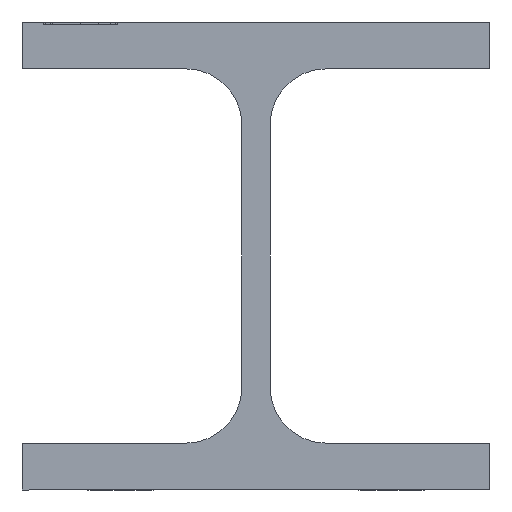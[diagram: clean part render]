
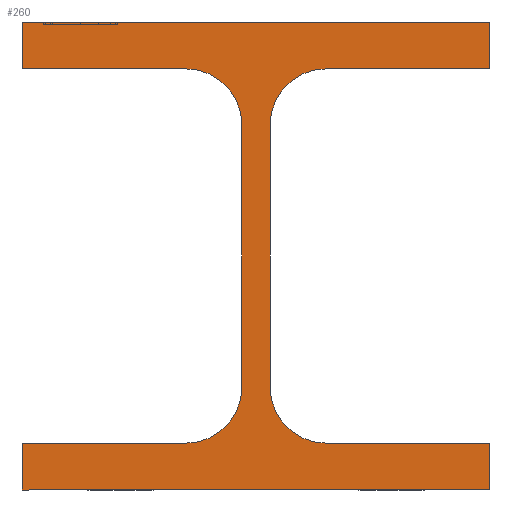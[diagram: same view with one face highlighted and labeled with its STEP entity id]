
A CAD part, left-side view. The second image highlights one B-rep face of the part: STEP entity #260.
In plain terms, the highlighted planar face has unit normal (-1, 0, 0).
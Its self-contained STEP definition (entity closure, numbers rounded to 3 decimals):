
#34 = DIRECTION ( 'NONE',  ( 0., 0., 1. ) ) ;
#65 = EDGE_CURVE ( 'NONE', #603, #608, #1135, .T. ) ;
#77 = DIRECTION ( 'NONE',  ( 0., 0., 1. ) ) ;
#126 = DIRECTION ( 'NONE',  ( 0., 0., 1. ) ) ;
#138 = CARTESIAN_POINT ( 'NONE',  ( -55., 3687., 2368. ) ) ;
#143 = ORIENTED_EDGE ( 'NONE', *, *, #1237, .T. ) ;
#147 = EDGE_CURVE ( 'NONE', #567, #1612, #151, .T. ) ;
#151 = LINE ( 'NONE', #1014, #1837 ) ;
#155 = DIRECTION ( 'NONE',  ( 0., -1., 0. ) ) ;
#222 = CARTESIAN_POINT ( 'NONE',  ( -55., 3687., 2312. ) ) ;
#241 = VECTOR ( 'NONE', #1602, 1000. ) ;
#260 = ADVANCED_FACE ( 'NONE', ( #1724 ), #892, .T. ) ;
#264 = VERTEX_POINT ( 'NONE', #222 ) ;
#275 = VECTOR ( 'NONE', #868, 1000. ) ;
#284 = LINE ( 'NONE', #1968, #876 ) ;
#299 = VERTEX_POINT ( 'NONE', #1387 ) ;
#315 = EDGE_CURVE ( 'NONE', #1959, #1876, #355, .T. ) ;
#323 = CARTESIAN_POINT ( 'NONE',  ( -55., 3705., 2312. ) ) ;
#340 = CIRCLE ( 'NONE', #1485, 12. ) ;
#342 = VECTOR ( 'NONE', #1894, 1000. ) ;
#344 = CARTESIAN_POINT ( 'NONE',  ( -55., 3640., 2300. ) ) ;
#355 = LINE ( 'NONE', #1425, #275 ) ;
#367 = CARTESIAN_POINT ( 'NONE',  ( -55., 3693., 2312. ) ) ;
#370 = ORIENTED_EDGE ( 'NONE', *, *, #489, .T. ) ;
#382 = LINE ( 'NONE', #534, #342 ) ;
#383 = VERTEX_POINT ( 'NONE', #974 ) ;
#405 = DIRECTION ( 'NONE',  ( 1., 0., 0. ) ) ;
#416 = VECTOR ( 'NONE', #816, 1000. ) ;
#446 = CARTESIAN_POINT ( 'NONE',  ( -55., 3693., 2312. ) ) ;
#447 = DIRECTION ( 'NONE',  ( 0., 0., 1. ) ) ;
#489 = EDGE_CURVE ( 'NONE', #1243, #1959, #1023, .T. ) ;
#491 = CARTESIAN_POINT ( 'NONE',  ( -55., 3687., 2368. ) ) ;
#493 = DIRECTION ( 'NONE',  ( 0., 1., 0. ) ) ;
#500 = DIRECTION ( 'NONE',  ( 1., 0., 0. ) ) ;
#534 = CARTESIAN_POINT ( 'NONE',  ( -55., 3640., 2290. ) ) ;
#536 = CARTESIAN_POINT ( 'NONE',  ( -55., 3740., 2390. ) ) ;
#567 = VERTEX_POINT ( 'NONE', #344 ) ;
#596 = VECTOR ( 'NONE', #1054, 1000. ) ;
#601 = EDGE_CURVE ( 'NONE', #383, #299, #835, .T. ) ;
#603 = VERTEX_POINT ( 'NONE', #1234 ) ;
#608 = VERTEX_POINT ( 'NONE', #2057 ) ;
#651 = LINE ( 'NONE', #138, #1450 ) ;
#679 = LINE ( 'NONE', #2036, #1952 ) ;
#685 = CARTESIAN_POINT ( 'NONE',  ( -55., 3640., 2380. ) ) ;
#704 = EDGE_CURVE ( 'NONE', #299, #1746, #340, .T. ) ;
#746 = EDGE_CURVE ( 'NONE', #1612, #264, #1488, .T. ) ;
#764 = CARTESIAN_POINT ( 'NONE',  ( -55., 3693., 2368. ) ) ;
#775 = CARTESIAN_POINT ( 'NONE',  ( -55., 3640., 2390. ) ) ;
#816 = DIRECTION ( 'NONE',  ( 0., 1., 0. ) ) ;
#822 = VERTEX_POINT ( 'NONE', #491 ) ;
#829 = DIRECTION ( 'NONE',  ( 0., 1., 0. ) ) ;
#835 = LINE ( 'NONE', #1362, #596 ) ;
#852 = EDGE_CURVE ( 'NONE', #1285, #1243, #1666, .T. ) ;
#868 = DIRECTION ( 'NONE',  ( 0., 0., -1. ) ) ;
#876 = VECTOR ( 'NONE', #126, 1000. ) ;
#892 = PLANE ( 'NONE',  #1228 ) ;
#894 = VERTEX_POINT ( 'NONE', #536 ) ;
#895 = CARTESIAN_POINT ( 'NONE',  ( -55., 3640., 2290. ) ) ;
#914 = VERTEX_POINT ( 'NONE', #895 ) ;
#958 = EDGE_LOOP ( 'NONE', ( #1454, #1523, #1435, #1042, #1571, #143, #2062, #2133, #1417, #1983, #1895, #978, #1400, #1967, #370, #2043 ) ) ;
#974 = CARTESIAN_POINT ( 'NONE',  ( -55., 3740., 2380. ) ) ;
#978 = ORIENTED_EDGE ( 'NONE', *, *, #704, .T. ) ;
#990 = VECTOR ( 'NONE', #1868, 1000. ) ;
#992 = LINE ( 'NONE', #685, #1445 ) ;
#1014 = CARTESIAN_POINT ( 'NONE',  ( -55., 3675., 2300. ) ) ;
#1023 = LINE ( 'NONE', #1704, #416 ) ;
#1034 = DIRECTION ( 'NONE',  ( -1., 0., 0. ) ) ;
#1042 = ORIENTED_EDGE ( 'NONE', *, *, #746, .T. ) ;
#1054 = DIRECTION ( 'NONE',  ( 0., -1., 0. ) ) ;
#1084 = CARTESIAN_POINT ( 'NONE',  ( -55., 3675., 2368. ) ) ;
#1122 = DIRECTION ( 'NONE',  ( 0., 0., 1. ) ) ;
#1135 = LINE ( 'NONE', #775, #2128 ) ;
#1174 = CARTESIAN_POINT ( 'NONE',  ( -55., 3740., 2380. ) ) ;
#1228 = AXIS2_PLACEMENT_3D ( 'NONE', #1557, #1034, #34 ) ;
#1234 = CARTESIAN_POINT ( 'NONE',  ( -55., 3640., 2380. ) ) ;
#1237 = EDGE_CURVE ( 'NONE', #822, #1932, #1272, .T. ) ;
#1243 = VERTEX_POINT ( 'NONE', #1762 ) ;
#1272 = CIRCLE ( 'NONE', #2169, 12. ) ;
#1280 = EDGE_CURVE ( 'NONE', #1876, #914, #382, .T. ) ;
#1285 = VERTEX_POINT ( 'NONE', #367 ) ;
#1362 = CARTESIAN_POINT ( 'NONE',  ( -55., 3705., 2380. ) ) ;
#1387 = CARTESIAN_POINT ( 'NONE',  ( -55., 3705., 2380. ) ) ;
#1400 = ORIENTED_EDGE ( 'NONE', *, *, #1799, .T. ) ;
#1417 = ORIENTED_EDGE ( 'NONE', *, *, #2076, .T. ) ;
#1421 = DIRECTION ( 'NONE',  ( 1., 0., 0. ) ) ;
#1425 = CARTESIAN_POINT ( 'NONE',  ( -55., 3740., 2290. ) ) ;
#1435 = ORIENTED_EDGE ( 'NONE', *, *, #147, .T. ) ;
#1445 = VECTOR ( 'NONE', #155, 1000. ) ;
#1450 = VECTOR ( 'NONE', #1860, 1000. ) ;
#1451 = CARTESIAN_POINT ( 'NONE',  ( -55., 3740., 2290. ) ) ;
#1454 = ORIENTED_EDGE ( 'NONE', *, *, #1280, .T. ) ;
#1461 = CARTESIAN_POINT ( 'NONE',  ( -55., 3675., 2312. ) ) ;
#1485 = AXIS2_PLACEMENT_3D ( 'NONE', #1603, #1421, #77 ) ;
#1488 = CIRCLE ( 'NONE', #1696, 12. ) ;
#1523 = ORIENTED_EDGE ( 'NONE', *, *, #1885, .T. ) ;
#1557 = CARTESIAN_POINT ( 'NONE',  ( -55., 2819., 2385. ) ) ;
#1571 = ORIENTED_EDGE ( 'NONE', *, *, #2064, .T. ) ;
#1602 = DIRECTION ( 'NONE',  ( 0., 0., -1. ) ) ;
#1603 = CARTESIAN_POINT ( 'NONE',  ( -55., 3705., 2368. ) ) ;
#1612 = VERTEX_POINT ( 'NONE', #1691 ) ;
#1618 = EDGE_CURVE ( 'NONE', #1932, #603, #992, .T. ) ;
#1666 = CIRCLE ( 'NONE', #2201, 12. ) ;
#1683 = CARTESIAN_POINT ( 'NONE',  ( -55., 3740., 2300. ) ) ;
#1691 = CARTESIAN_POINT ( 'NONE',  ( -55., 3675., 2300. ) ) ;
#1696 = AXIS2_PLACEMENT_3D ( 'NONE', #1461, #2149, #447 ) ;
#1704 = CARTESIAN_POINT ( 'NONE',  ( -55., 3740., 2300. ) ) ;
#1724 = FACE_OUTER_BOUND ( 'NONE', #958, .T. ) ;
#1726 = DIRECTION ( 'NONE',  ( 0., 0., 1. ) ) ;
#1746 = VERTEX_POINT ( 'NONE', #764 ) ;
#1762 = CARTESIAN_POINT ( 'NONE',  ( -55., 3705., 2300. ) ) ;
#1792 = LINE ( 'NONE', #446, #241 ) ;
#1799 = EDGE_CURVE ( 'NONE', #1746, #1285, #1792, .T. ) ;
#1837 = VECTOR ( 'NONE', #829, 1000. ) ;
#1841 = LINE ( 'NONE', #1174, #990 ) ;
#1860 = DIRECTION ( 'NONE',  ( 0., 0., 1. ) ) ;
#1868 = DIRECTION ( 'NONE',  ( 0., 0., -1. ) ) ;
#1876 = VERTEX_POINT ( 'NONE', #1451 ) ;
#1885 = EDGE_CURVE ( 'NONE', #914, #567, #284, .T. ) ;
#1894 = DIRECTION ( 'NONE',  ( 0., -1., 0. ) ) ;
#1895 = ORIENTED_EDGE ( 'NONE', *, *, #601, .T. ) ;
#1932 = VERTEX_POINT ( 'NONE', #1956 ) ;
#1952 = VECTOR ( 'NONE', #493, 1000. ) ;
#1956 = CARTESIAN_POINT ( 'NONE',  ( -55., 3675., 2380. ) ) ;
#1959 = VERTEX_POINT ( 'NONE', #1683 ) ;
#1967 = ORIENTED_EDGE ( 'NONE', *, *, #852, .T. ) ;
#1968 = CARTESIAN_POINT ( 'NONE',  ( -55., 3640., 2300. ) ) ;
#1983 = ORIENTED_EDGE ( 'NONE', *, *, #2079, .T. ) ;
#2016 = DIRECTION ( 'NONE',  ( 0., 0., 1. ) ) ;
#2036 = CARTESIAN_POINT ( 'NONE',  ( -55., 3740., 2390. ) ) ;
#2043 = ORIENTED_EDGE ( 'NONE', *, *, #315, .T. ) ;
#2057 = CARTESIAN_POINT ( 'NONE',  ( -55., 3640., 2390. ) ) ;
#2062 = ORIENTED_EDGE ( 'NONE', *, *, #1618, .T. ) ;
#2064 = EDGE_CURVE ( 'NONE', #264, #822, #651, .T. ) ;
#2076 = EDGE_CURVE ( 'NONE', #608, #894, #679, .T. ) ;
#2079 = EDGE_CURVE ( 'NONE', #894, #383, #1841, .T. ) ;
#2128 = VECTOR ( 'NONE', #1122, 1000. ) ;
#2133 = ORIENTED_EDGE ( 'NONE', *, *, #65, .T. ) ;
#2149 = DIRECTION ( 'NONE',  ( 1., 0., 0. ) ) ;
#2169 = AXIS2_PLACEMENT_3D ( 'NONE', #1084, #405, #1726 ) ;
#2201 = AXIS2_PLACEMENT_3D ( 'NONE', #323, #500, #2016 ) ;
